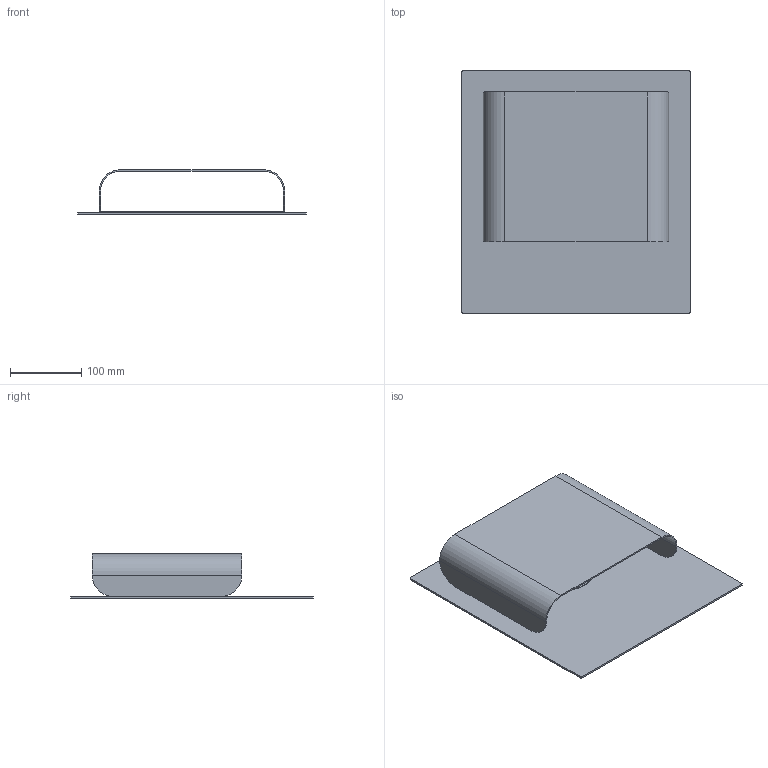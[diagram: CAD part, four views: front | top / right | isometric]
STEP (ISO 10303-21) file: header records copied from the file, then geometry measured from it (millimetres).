
FILE_DESCRIPTION (( 'STEP AP214' ), '1' );
FILE_NAME ('Elwood Landscape Outdoor - Lightweight.STEP', '2023-09-04T04:11:57', ( '' ), ( '' ), 'SwSTEP 2.0', 'SolidWorks 2017', '' );
FILE_SCHEMA (( 'AUTOMOTIVE_DESIGN' ));
Length unit declared in the file: millimetre
Products named in the file (1): Elwood Landscape Outdoor - Lightweight
Bounding box: 320 x 340 x 62.5 mm (x, y, z)
Volume: 427355.9 mm3; surface area: 381092.2 mm2
Topology: 3 solids, 3 shells, 40 faces, 100 edges, 64 vertices
Faces by surface type: cylinder 20, plane 20
Entity records: 1700 total; most frequent: DIRECTION 222, CARTESIAN_POINT 205, ORIENTED_EDGE 200, EDGE_CURVE 100, AXIS2_PLACEMENT_3D 81, VERTEX_POINT 64, VECTOR 60, LINE 60
